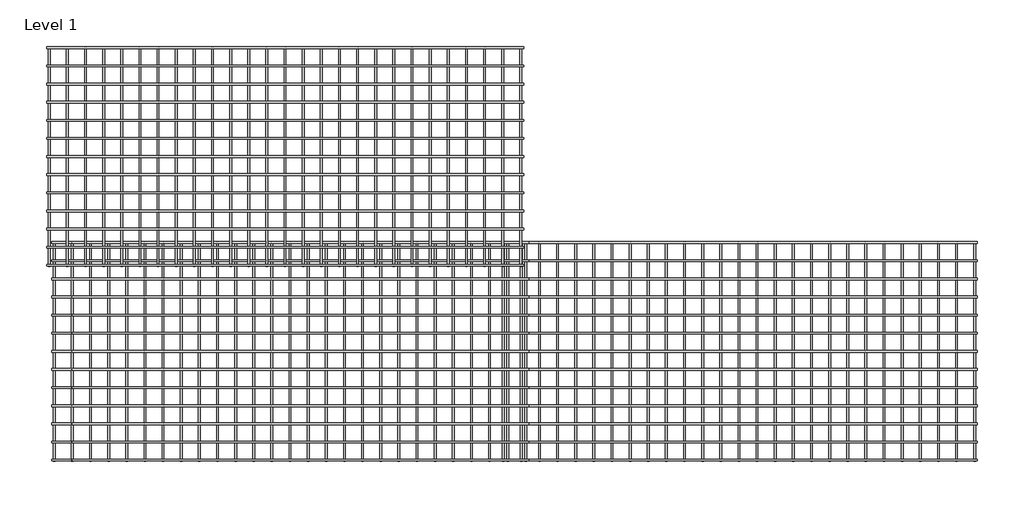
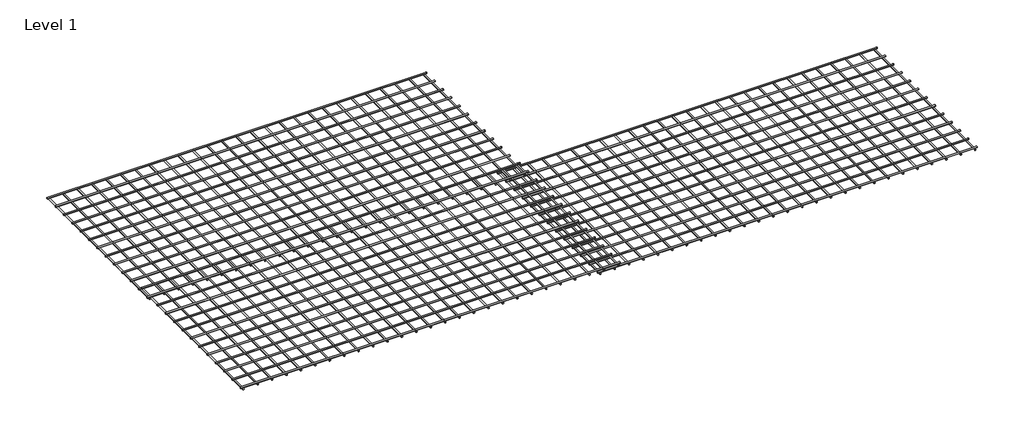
# One storey: 3 proxies.
"""IFC4 building model written with IfcOpenShell, lengths in millimetres."""

from ifc_helpers import new_model, si_unit, origin, place, context, project, spatial, transform, mapped, element, save
from components import united_steel_heavy_mesh_m102_united_steel_heavy_mesh_m102_de9dde1c

model = new_model("IFC4")

# Units and contexts
model_context = context("Model", 3, world=origin())
ifc_project = project(units=[si_unit("LENGTHUNIT", "METRE", prefix="MILLI")], contexts=[model_context])

# Site, building, storey
site = spatial("IfcSite", under=ifc_project)
building = spatial("IfcBuilding", under=site)
storey = spatial("IfcBuildingStorey", under=building, Name="Level 1", Elevation=0.0)

# Proxies
placement = place(None, origin())
united_steel_heavy_mesh_m102_united_steel_heavy_mesh_m102_shape = united_steel_heavy_mesh_m102_united_steel_heavy_mesh_m102_de9dde1c(model_context)
element("IfcBuildingElementProxy", 1, Name="United Steel Heavy mesh M102 : United Steel Heavy mesh M102", ObjectType="United Steel Heavy mesh M102 : United Steel Heavy mesh M102", at=placement, inside=storey, context=model_context, shape_type="MappedRepresentation", body=[
    mapped(united_steel_heavy_mesh_m102_united_steel_heavy_mesh_m102_shape, transform((5541.4419089, 2142.5657499, 73.125), x_axis=(1.0, 0.0, 0.0), y_axis=(0.0, 1.0, 0.0), z_axis=(0.0, 0.0, 1.0))),
])
element("IfcBuildingElementProxy", 2, Name="United Steel Heavy mesh M102 : United Steel Heavy mesh M102", ObjectType="United Steel Heavy mesh M102 : United Steel Heavy mesh M102", at=placement, inside=storey, context=model_context, shape_type="MappedRepresentation", body=[
    mapped(united_steel_heavy_mesh_m102_united_steel_heavy_mesh_m102_shape, transform((5486.2856589, 4292.6324308, 115.0), x_axis=(1.0, 0.0, 0.0), y_axis=(0.0, 1.0, 0.0), z_axis=(0.0, 0.0, 1.0))),
])
element("IfcBuildingElementProxy", 3, Name="United Steel Heavy mesh M102 : United Steel Heavy mesh M102", ObjectType="United Steel Heavy mesh M102 : United Steel Heavy mesh M102", at=placement, inside=storey, context=model_context, shape_type="MappedRepresentation", body=[
    mapped(united_steel_heavy_mesh_m102_united_steel_heavy_mesh_m102_shape, transform((10491.1955059, 2142.5757703, 33.75), x_axis=(1.0, 0.0, 0.0), y_axis=(0.0, 1.0, 0.0), z_axis=(0.0, 0.0, 1.0))),
])

save(model, "model.ifc")
